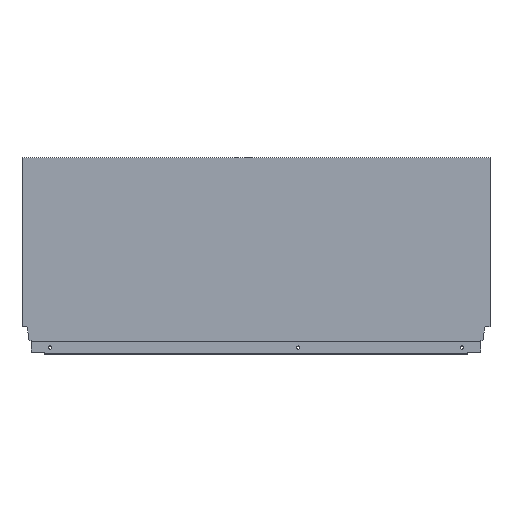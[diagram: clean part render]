
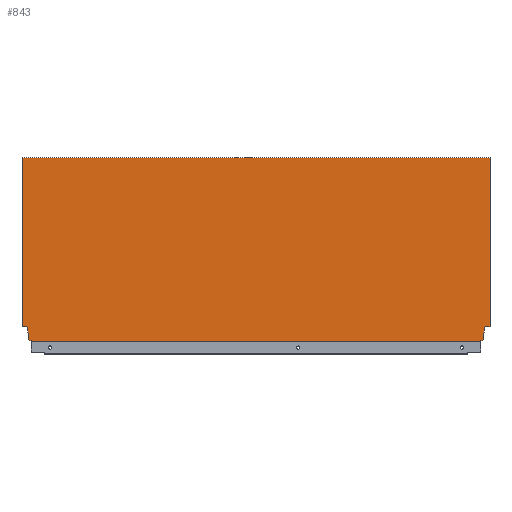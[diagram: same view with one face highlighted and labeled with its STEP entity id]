
A CAD part, top view. The second image highlights one B-rep face of the part: STEP entity #843.
In plain terms, the highlighted planar face has unit normal (0, 0, 1).
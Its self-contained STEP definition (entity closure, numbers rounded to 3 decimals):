
#96 = EDGE_LOOP ( 'NONE', ( #1014, #1013, #1012, #1011, #1004, #1010, #1009, #1008, #974, #975, #976, #1007, #1006, #973 ) ) ;
#132 = LINE ( 'NONE', #1500, #147 ) ;
#140 = LINE ( 'NONE', #1498, #149 ) ;
#143 = LINE ( 'NONE', #1502, #144 ) ;
#144 = VECTOR ( 'NONE', #1501, 1000. ) ;
#146 = LINE ( 'NONE', #1496, #155 ) ;
#147 = VECTOR ( 'NONE', #1497, 1000. ) ;
#148 = LINE ( 'NONE', #1490, #157 ) ;
#149 = VECTOR ( 'NONE', #1495, 1000. ) ;
#150 = LINE ( 'NONE', #1488, #159 ) ;
#153 = LINE ( 'NONE', #1492, #154 ) ;
#154 = VECTOR ( 'NONE', #1491, 1000. ) ;
#155 = VECTOR ( 'NONE', #1489, 1000. ) ;
#156 = LINE ( 'NONE', #1486, #163 ) ;
#157 = VECTOR ( 'NONE', #1487, 1000. ) ;
#158 = LINE ( 'NONE', #1481, #165 ) ;
#159 = VECTOR ( 'NONE', #1485, 1000. ) ;
#160 = LINE ( 'NONE', #1479, #167 ) ;
#161 = LINE ( 'NONE', #1484, #162 ) ;
#162 = VECTOR ( 'NONE', #1482, 1000. ) ;
#163 = VECTOR ( 'NONE', #1480, 1000. ) ;
#164 = LINE ( 'NONE', #1477, #169 ) ;
#165 = VECTOR ( 'NONE', #1478, 1000. ) ;
#167 = VECTOR ( 'NONE', #1476, 1000. ) ;
#169 = VECTOR ( 'NONE', #1474, 1000. ) ;
#170 = VECTOR ( 'NONE', #1451, 1000. ) ;
#171 = LINE ( 'NONE', #1473, #172 ) ;
#172 = VECTOR ( 'NONE', #1472, 1000. ) ;
#175 = LINE ( 'NONE', #1454, #170 ) ;
#342 = CARTESIAN_POINT ( 'NONE',  ( -655.94, 21.2, 8. ) ) ;
#362 = CARTESIAN_POINT ( 'NONE',  ( -13.004, 0., 8. ) ) ;
#364 = CARTESIAN_POINT ( 'NONE',  ( -13.004, 1.146, 8. ) ) ;
#366 = CARTESIAN_POINT ( 'NONE',  ( -654.1, 2.64, 8. ) ) ;
#367 = CARTESIAN_POINT ( 'NONE',  ( -649.996, 0., 8. ) ) ;
#368 = CARTESIAN_POINT ( 'NONE',  ( -7.06, 21.2, 8. ) ) ;
#380 = CARTESIAN_POINT ( 'NONE',  ( -8.9, 10.765, 8. ) ) ;
#390 = CARTESIAN_POINT ( 'NONE',  ( -654.1, 10.765, 8. ) ) ;
#398 = CARTESIAN_POINT ( 'NONE',  ( -8.9, 2.64, 8. ) ) ;
#401 = CARTESIAN_POINT ( 'NONE',  ( 0., 260.7, 8. ) ) ;
#413 = CARTESIAN_POINT ( 'NONE',  ( -663., 21.2, 8. ) ) ;
#417 = CARTESIAN_POINT ( 'NONE',  ( -649.996, 1.146, 8. ) ) ;
#418 = CARTESIAN_POINT ( 'NONE',  ( 0., 21.2, 8. ) ) ;
#428 = CARTESIAN_POINT ( 'NONE',  ( -663., 260.7, 8. ) ) ;
#572 = FACE_OUTER_BOUND ( 'NONE', #96, .T. ) ;
#646 = EDGE_CURVE ( 'NONE', #1289, #1413, #143, .T. ) ;
#648 = EDGE_CURVE ( 'NONE', #1413, #1391, #132, .T. ) ;
#649 = EDGE_CURVE ( 'NONE', #1345, #1289, #140, .T. ) ;
#651 = EDGE_CURVE ( 'NONE', #1391, #1352, #153, .T. ) ;
#652 = EDGE_CURVE ( 'NONE', #1352, #1421, #146, .T. ) ;
#653 = EDGE_CURVE ( 'NONE', #1273, #1312, #148, .T. ) ;
#654 = EDGE_CURVE ( 'NONE', #1421, #1425, #150, .T. ) ;
#655 = EDGE_CURVE ( 'NONE', #1294, #1417, #161, .T. ) ;
#656 = EDGE_CURVE ( 'NONE', #1417, #1372, #156, .T. ) ;
#657 = EDGE_CURVE ( 'NONE', #1372, #1465, #158, .T. ) ;
#658 = EDGE_CURVE ( 'NONE', #1465, #1312, #160, .T. ) ;
#659 = EDGE_CURVE ( 'NONE', #1416, #1425, #164, .T. ) ;
#660 = EDGE_CURVE ( 'NONE', #1273, #1345, #171, .T. ) ;
#664 = EDGE_CURVE ( 'NONE', #1416, #1294, #175, .T. ) ;
#790 = AXIS2_PLACEMENT_3D ( 'NONE', #1103, #1090, #1088 ) ;
#843 = ADVANCED_FACE ( 'NONE', ( #572 ), #1095, .T. ) ;
#973 = ORIENTED_EDGE ( 'NONE', *, *, #660, .F. ) ;
#974 = ORIENTED_EDGE ( 'NONE', *, *, #652, .F. ) ;
#975 = ORIENTED_EDGE ( 'NONE', *, *, #651, .F. ) ;
#976 = ORIENTED_EDGE ( 'NONE', *, *, #648, .F. ) ;
#1004 = ORIENTED_EDGE ( 'NONE', *, *, #655, .F. ) ;
#1006 = ORIENTED_EDGE ( 'NONE', *, *, #649, .F. ) ;
#1007 = ORIENTED_EDGE ( 'NONE', *, *, #646, .F. ) ;
#1008 = ORIENTED_EDGE ( 'NONE', *, *, #654, .F. ) ;
#1009 = ORIENTED_EDGE ( 'NONE', *, *, #659, .T. ) ;
#1010 = ORIENTED_EDGE ( 'NONE', *, *, #664, .F. ) ;
#1011 = ORIENTED_EDGE ( 'NONE', *, *, #656, .F. ) ;
#1012 = ORIENTED_EDGE ( 'NONE', *, *, #657, .F. ) ;
#1013 = ORIENTED_EDGE ( 'NONE', *, *, #658, .F. ) ;
#1014 = ORIENTED_EDGE ( 'NONE', *, *, #653, .T. ) ;
#1088 = DIRECTION ( 'NONE',  ( 1., 0., 0. ) ) ;
#1090 = DIRECTION ( 'NONE',  ( 0., 0., 1. ) ) ;
#1095 = PLANE ( 'NONE',  #790 ) ;
#1103 = CARTESIAN_POINT ( 'NONE',  ( -663., 0., 8. ) ) ;
#1273 = VERTEX_POINT ( 'NONE', #428 ) ;
#1289 = VERTEX_POINT ( 'NONE', #418 ) ;
#1294 = VERTEX_POINT ( 'NONE', #417 ) ;
#1312 = VERTEX_POINT ( 'NONE', #413 ) ;
#1345 = VERTEX_POINT ( 'NONE', #401 ) ;
#1352 = VERTEX_POINT ( 'NONE', #398 ) ;
#1372 = VERTEX_POINT ( 'NONE', #390 ) ;
#1391 = VERTEX_POINT ( 'NONE', #380 ) ;
#1413 = VERTEX_POINT ( 'NONE', #368 ) ;
#1416 = VERTEX_POINT ( 'NONE', #367 ) ;
#1417 = VERTEX_POINT ( 'NONE', #366 ) ;
#1421 = VERTEX_POINT ( 'NONE', #364 ) ;
#1425 = VERTEX_POINT ( 'NONE', #362 ) ;
#1451 = DIRECTION ( 'NONE',  ( 0., 1., 0. ) ) ;
#1454 = CARTESIAN_POINT ( 'NONE',  ( -649.996, 1.146, 8. ) ) ;
#1465 = VERTEX_POINT ( 'NONE', #342 ) ;
#1472 = DIRECTION ( 'NONE',  ( 1., 0., 0. ) ) ;
#1473 = CARTESIAN_POINT ( 'NONE',  ( -663., 260.7, 8. ) ) ;
#1474 = DIRECTION ( 'NONE',  ( 1., 0., 0. ) ) ;
#1476 = DIRECTION ( 'NONE',  ( -1., 0., 0. ) ) ;
#1477 = CARTESIAN_POINT ( 'NONE',  ( -663., 0., 8. ) ) ;
#1478 = DIRECTION ( 'NONE',  ( -0.174, 0.985, 0. ) ) ;
#1479 = CARTESIAN_POINT ( 'NONE',  ( -668., 21.2, 8. ) ) ;
#1480 = DIRECTION ( 'NONE',  ( 0., 1., 0. ) ) ;
#1481 = CARTESIAN_POINT ( 'NONE',  ( -655.94, 21.2, 8. ) ) ;
#1482 = DIRECTION ( 'NONE',  ( -0.94, 0.342, 0. ) ) ;
#1484 = CARTESIAN_POINT ( 'NONE',  ( -654.1, 2.64, 8. ) ) ;
#1485 = DIRECTION ( 'NONE',  ( 0., -1., 0. ) ) ;
#1486 = CARTESIAN_POINT ( 'NONE',  ( -654.1, 10.765, 8. ) ) ;
#1487 = DIRECTION ( 'NONE',  ( 0., -1., 0. ) ) ;
#1488 = CARTESIAN_POINT ( 'NONE',  ( -13.004, 1.146, 8. ) ) ;
#1489 = DIRECTION ( 'NONE',  ( -0.94, -0.342, 0. ) ) ;
#1490 = CARTESIAN_POINT ( 'NONE',  ( -663., 0., 8. ) ) ;
#1491 = DIRECTION ( 'NONE',  ( 0., -1., 0. ) ) ;
#1492 = CARTESIAN_POINT ( 'NONE',  ( -8.9, 10.765, 8. ) ) ;
#1495 = DIRECTION ( 'NONE',  ( 0., -1., 0. ) ) ;
#1496 = CARTESIAN_POINT ( 'NONE',  ( -8.9, 2.64, 8. ) ) ;
#1497 = DIRECTION ( 'NONE',  ( -0.174, -0.985, 0. ) ) ;
#1498 = CARTESIAN_POINT ( 'NONE',  ( 0., 0., 8. ) ) ;
#1500 = CARTESIAN_POINT ( 'NONE',  ( -7.06, 21.2, 8. ) ) ;
#1501 = DIRECTION ( 'NONE',  ( -1., 0., 0. ) ) ;
#1502 = CARTESIAN_POINT ( 'NONE',  ( 0., 21.2, 8. ) ) ;
